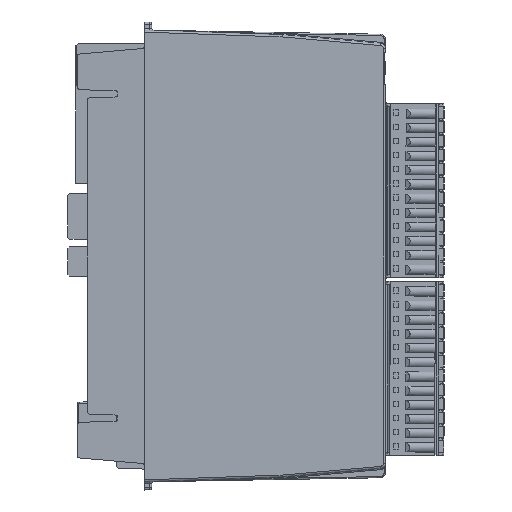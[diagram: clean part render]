
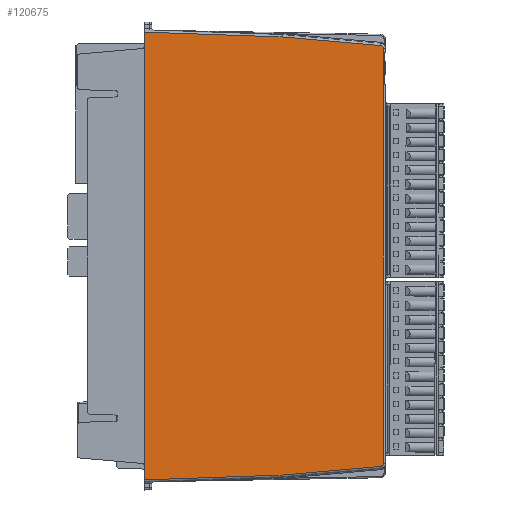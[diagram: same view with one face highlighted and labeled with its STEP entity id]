
A CAD part, left-side view. The second image highlights one B-rep face of the part: STEP entity #120675.
In plain terms, the highlighted planar face has unit normal (-1, -0.018, 0).
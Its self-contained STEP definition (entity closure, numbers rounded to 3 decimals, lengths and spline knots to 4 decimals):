
#998=ELLIPSE('',#128835,0.0315,0.0315);
#999=ELLIPSE('',#128836,0.0315,0.0315);
#5761=PLANE('',#128834);
#10804=FACE_OUTER_BOUND('',#17340,.T.);
#17340=EDGE_LOOP('',(#94463,#94464,#94465,#94466,#94467,#94468,#94469,#94470,
#94471,#94472));
#31895=LINE('',#188762,#44299);
#31896=LINE('',#188764,#44300);
#31897=LINE('',#188766,#44301);
#31898=LINE('',#188768,#44302);
#31899=LINE('',#188770,#44303);
#31900=LINE('',#188774,#44304);
#31901=LINE('',#188778,#44305);
#31902=LINE('',#188779,#44306);
#44299=VECTOR('',#150000,39.3701);
#44300=VECTOR('',#150001,39.3701);
#44301=VECTOR('',#150002,39.3701);
#44302=VECTOR('',#150003,39.3701);
#44303=VECTOR('',#150004,39.3701);
#44304=VECTOR('',#150007,39.3701);
#44305=VECTOR('',#150010,39.3701);
#44306=VECTOR('',#150011,39.3701);
#55569=VERTEX_POINT('',#188760);
#55570=VERTEX_POINT('',#188761);
#55571=VERTEX_POINT('',#188763);
#55572=VERTEX_POINT('',#188765);
#55573=VERTEX_POINT('',#188767);
#55574=VERTEX_POINT('',#188769);
#55575=VERTEX_POINT('',#188771);
#55576=VERTEX_POINT('',#188773);
#55577=VERTEX_POINT('',#188775);
#55578=VERTEX_POINT('',#188777);
#69450=EDGE_CURVE('',#55569,#55570,#31895,.T.);
#69451=EDGE_CURVE('',#55571,#55570,#31896,.T.);
#69452=EDGE_CURVE('',#55571,#55572,#31897,.T.);
#69453=EDGE_CURVE('',#55572,#55573,#31898,.T.);
#69454=EDGE_CURVE('',#55573,#55574,#31899,.T.);
#69455=EDGE_CURVE('',#55574,#55575,#998,.T.);
#69456=EDGE_CURVE('',#55575,#55576,#31900,.T.);
#69457=EDGE_CURVE('',#55576,#55577,#999,.T.);
#69458=EDGE_CURVE('',#55577,#55578,#31901,.T.);
#69459=EDGE_CURVE('',#55578,#55569,#31902,.T.);
#94463=ORIENTED_EDGE('',*,*,#69450,.T.);
#94464=ORIENTED_EDGE('',*,*,#69451,.F.);
#94465=ORIENTED_EDGE('',*,*,#69452,.T.);
#94466=ORIENTED_EDGE('',*,*,#69453,.T.);
#94467=ORIENTED_EDGE('',*,*,#69454,.T.);
#94468=ORIENTED_EDGE('',*,*,#69455,.T.);
#94469=ORIENTED_EDGE('',*,*,#69456,.T.);
#94470=ORIENTED_EDGE('',*,*,#69457,.T.);
#94471=ORIENTED_EDGE('',*,*,#69458,.T.);
#94472=ORIENTED_EDGE('',*,*,#69459,.T.);
#120675=ADVANCED_FACE('',(#10804),#5761,.T.);
#128834=AXIS2_PLACEMENT_3D('',#188759,#149998,#149999);
#128835=AXIS2_PLACEMENT_3D('',#188772,#150005,#150006);
#128836=AXIS2_PLACEMENT_3D('',#188776,#150008,#150009);
#149998=DIRECTION('center_axis',(-1.,-0.017,
0.));
#149999=DIRECTION('ref_axis',(-0.017,1.,0.));
#150000=DIRECTION('',(0.,0.,-1.));
#150001=DIRECTION('',(0.,0.,1.));
#150002=DIRECTION('',(0.,0.,-1.));
#150003=DIRECTION('',(0.017,-0.999,0.035));
#150004=DIRECTION('',(0.017,-0.996,0.087));
#150005=DIRECTION('center_axis',(-1.,-0.017,
0.));
#150006=DIRECTION('ref_axis',(0.017,-1.,0.));
#150007=DIRECTION('',(0.,0.,1.));
#150008=DIRECTION('center_axis',(-1.,-0.017,
0.));
#150009=DIRECTION('ref_axis',(0.017,-1.,0.));
#150010=DIRECTION('',(-0.017,0.996,0.087));
#150011=DIRECTION('',(-0.017,0.999,0.035));
#188759=CARTESIAN_POINT('Origin',(-0.0296,-0.489,
-2.0669));
#188760=CARTESIAN_POINT('',(-0.0227,-0.8827,0.1083));
#188761=CARTESIAN_POINT('',(-0.0227,-0.8827,-0.0312));
#188762=CARTESIAN_POINT('',(-0.0227,-0.8827,0.128));
#188763=CARTESIAN_POINT('',(-0.0227,-0.8827,-4.1027));
#188764=CARTESIAN_POINT('',(-0.0227,-0.8827,-7.5932));
#188765=CARTESIAN_POINT('',(-0.0227,-0.8827,-4.2421));
#188766=CARTESIAN_POINT('',(-0.0227,-0.8827,0.128));
#188767=CARTESIAN_POINT('',(0.0007,-2.2205,-4.1954));
#188768=CARTESIAN_POINT('',(-0.0282,-0.5654,-4.2532));
#188769=CARTESIAN_POINT('',(0.0174,-3.1772,-4.1117));
#188770=CARTESIAN_POINT('',(-0.0261,-0.6869,-4.3296));
#188771=CARTESIAN_POINT('',(0.0179,-3.2059,-4.0803));
#188772=CARTESIAN_POINT('Origin',(0.0173,-3.1744,
-4.0803));
#188773=CARTESIAN_POINT('',(0.0179,-3.2059,-0.0535));
#188774=CARTESIAN_POINT('',(0.0179,-3.2059,-0.0535));
#188775=CARTESIAN_POINT('',(0.0174,-3.1772,-0.0221));
#188776=CARTESIAN_POINT('Origin',(0.0173,-3.1744,
-0.0535));
#188777=CARTESIAN_POINT('',(0.0007,-2.2205,0.0616));
#188778=CARTESIAN_POINT('',(-0.0261,-0.6869,0.1957));
#188779=CARTESIAN_POINT('',(-0.0282,-0.5654,0.1194));
